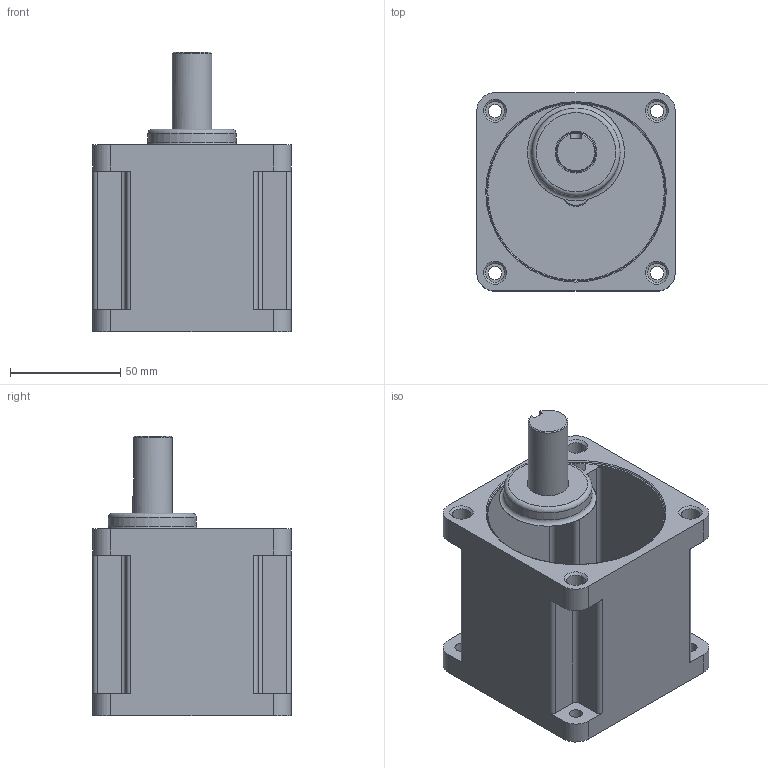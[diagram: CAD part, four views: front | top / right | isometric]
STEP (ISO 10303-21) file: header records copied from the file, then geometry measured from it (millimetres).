
FILE_DESCRIPTION(/* description */ (''),/* implementation_level */ '2;1');
FILE_NAME(/* name */ 'Y:\제품연구개발\3. 도면\3. 고객배포용\3D_홈페이지용\01 Standard AC Motor\03 ELECTROMAGNETIC BRAKE MOTOR\S9R(I)90_-E+S9KC(D)\S9KH3B~200B.stp',/* time_stamp */ '2022-11-04T16:09:09+09:00',/* author */ ('h22'),/* organization */ (''),/* preprocessor_version */ 'ST-DEVELOPER v18.1',/* originating_system */ 'Autodesk Inventor 2022',/* authorisation */ '');
FILE_SCHEMA (('AUTOMOTIVE_DESIGN { 1 0 10303 214 3 1 1 }'));
Length unit declared in the file: millimetre
Products named in the file (1): S9KH3B~200B
Bounding box: 90 x 90 x 127 mm (x, y, z)
Volume: 619103.5 mm3; surface area: 53999.6 mm2
Topology: 1 solids, 1 shells, 79 faces, 205 edges, 133 vertices
Faces by surface type: cylinder 34, plane 33, cone 7, torus 4, bspline 1
Full cylindrical faces by diameter (mm): 6 x4, 8.5 x4, 12 x1, 18 x1, 19 x1, 40 x1, 83.5 x1
Entity records: 2769 total; most frequent: CARTESIAN_POINT 677, DIRECTION 446, ORIENTED_EDGE 410, EDGE_CURVE 205, AXIS2_PLACEMENT_3D 166, VERTEX_POINT 133, LINE 114, VECTOR 114
